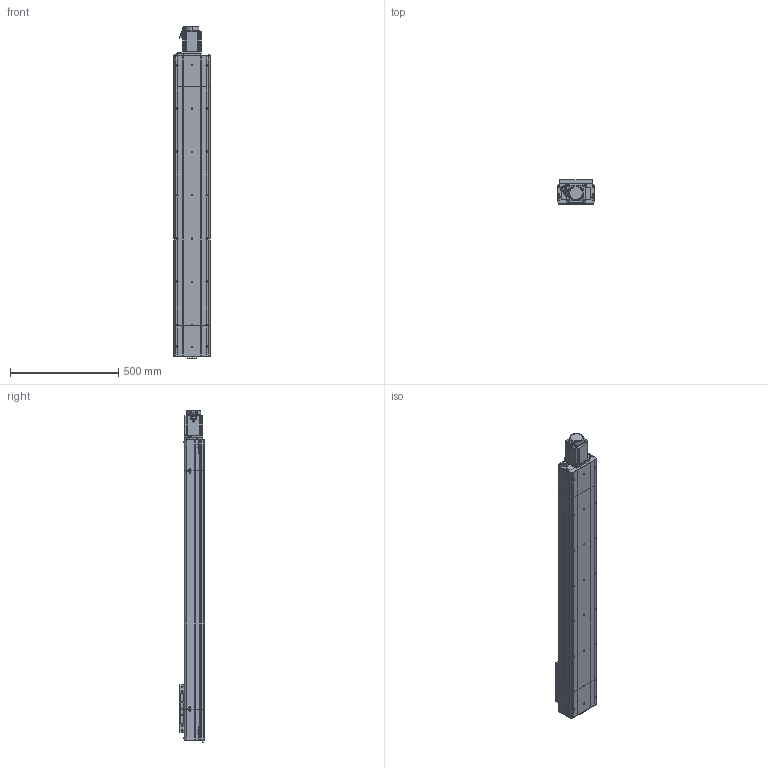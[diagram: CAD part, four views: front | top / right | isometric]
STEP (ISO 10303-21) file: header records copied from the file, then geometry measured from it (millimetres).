
FILE_DESCRIPTION (( 'STEP AP214' ), '1' );
FILE_NAME ('D17 CSH MD S1100.STEP', '2010-06-29T14:30:40', ( 'Christophe Gaillard' ), ( 'SGA' ), 'SwSTEP 2.0', 'SolidWorks 2010', '' );
FILE_SCHEMA (( 'AUTOMOTIVE_DESIGN' ));
Length unit declared in the file: millimetre
Products named in the file (25): Corp L1100_Default; Corp Tail D17+100_Default; support chariot D17_Default; Chariot D17_Default; Plaque de bout D17_Default; plaque de serrage D17_Default; couvercle D17_Default; Tail D17+100_Default; couvercle D17-1100_Default; glissiere_Default; vis M5 L15_Default; chariot D17_Default; Moteur motionking 90BLDC100A-640; plaque de serrage D17 head_Default; couvercle D17 head_Default; Conecteur_Default; Conecteur2_Default; avant 90BLDC100A-640; Plaque de bout D17 head_Default; Corp Head D17 MD_Default; codeur 90BLDC100-640; corps 90BLDC100A-640; Corp D17 S1100_Default; Head D17 MD_Default; D17 CSH MD S1100
Assembly tree (44 placements, depth 4):
  D17 CSH MD S1100
    Chariot D17_Default
      vis M5 L15_Default  x8
      chariot D17_Default
      support chariot D17_Default
      glissiere_Default
    Tail D17+100_Default
      vis M5 L15_Default  x6
      couvercle D17_Default
      Corp Tail D17+100_Default
      Plaque de bout D17_Default
      plaque de serrage D17_Default
    Head D17 MD_Default
      vis M5 L15_Default  x7
      couvercle D17 head_Default
      Plaque de bout D17 head_Default
      Moteur motionking 90BLDC100A-640
        avant 90BLDC100A-640
        Conecteur_Default
        codeur 90BLDC100-640
        Conecteur2_Default
        corps 90BLDC100A-640
      plaque de serrage D17 head_Default
      Corp Head D17 MD_Default
    Corp D17 S1100_Default
      couvercle D17-1100_Default
      Corp L1100_Default
Bounding box: 172 x 114 x 1533 mm (x, y, z)
Volume: 9858451.5 mm3; surface area: 1735265.7 mm2
Topology: 81 solids, 81 shells, 2997 faces, 7610 edges, 4992 vertices
Faces by surface type: plane 1814, bspline 710, cylinder 378, torus 53, cone 42
Entity records: 144419 total; most frequent: CARTESIAN_POINT 78565, ORIENTED_EDGE 13216, DIRECTION 9434, EDGE_CURVE 6608, VECTOR 4480, LINE 4480, VERTEX_POINT 4392, EDGE_LOOP 2778
